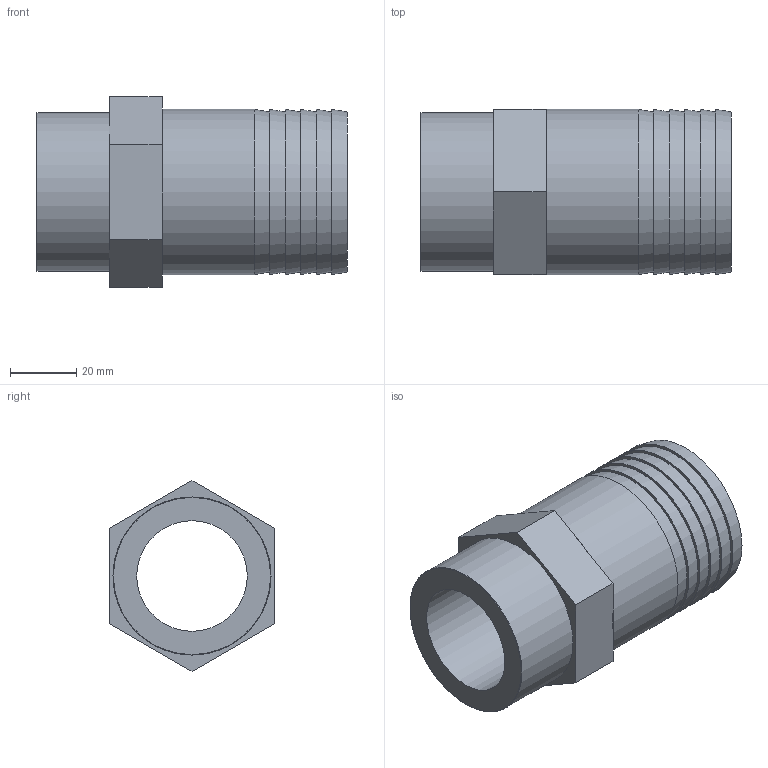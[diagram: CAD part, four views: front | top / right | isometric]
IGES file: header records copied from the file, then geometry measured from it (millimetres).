
Global section: file name: 053601050015.ipt; native system: Autodesk Inventor 2015; preprocessor: unknown; author: KIM; date: 20171207.165532; units: millimetre
Bounding box: 94 x 50 x 57.73 mm (x, y, z)
Volume: 99599.8 mm3; surface area: 27822.7 mm2
Topology: 1 solids, 1 shells, 30 faces, 61 edges, 39 vertices
Faces by surface type: plane 20, cone 6, revolution 2, cylinder 2
Full cylindrical faces by diameter (mm): 47.803 x1, 50 x1
